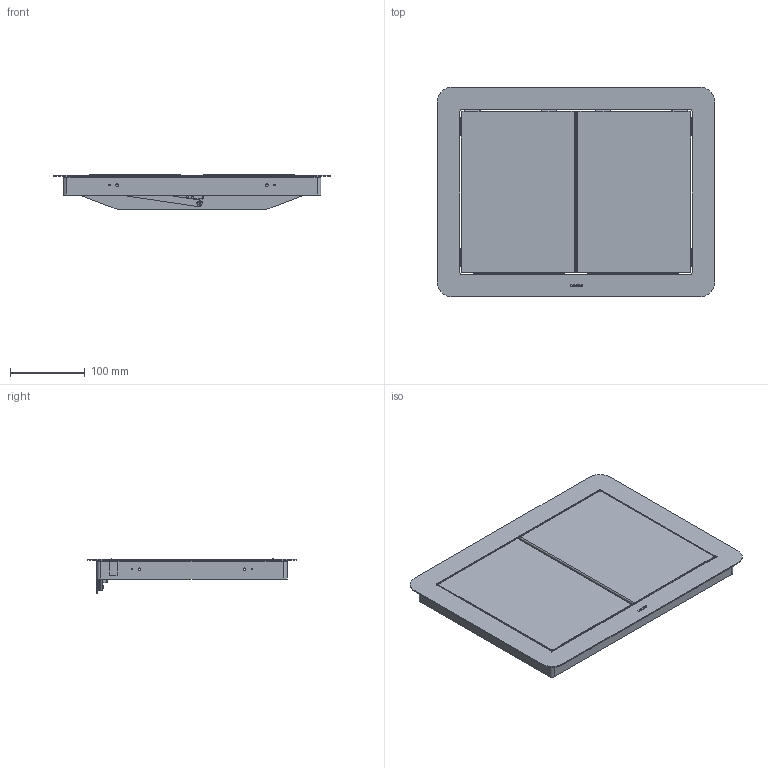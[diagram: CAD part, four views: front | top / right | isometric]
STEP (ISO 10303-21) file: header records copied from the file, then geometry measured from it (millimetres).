
FILE_DESCRIPTION (( 'STEP AP203' ), '1' );
FILE_NAME ('AZ-DD310(HL)_1.step', '2018-12-17T01:07:29', ( '' ), ( '' ), 'SwSTEP 2.0', 'SolidWorks 2015', '' );
FILE_SCHEMA (( 'CONFIG_CONTROL_DESIGN' ));
Length unit declared in the file: millimetre
Products named in the file (29): AZ-DD310(HL)_1; SC210-20655_HG-SH-25C_羽根B; SC210-19975_AZ-DD310(HL)_傾乕儉B ASSY; SC210-07866_AZ-DD310(HL)_本体; SC210-20655_HG-SH-25C_塇崻B_冇4寠捛壛岺; SC170-05419_HG-SH-25C_軸; SC210-19983_AZ-DD310(HL)_ばね_R; SC170-07874_AZ-DD310(HL)_フレーム; SC210-19992_HG-SH-25C_冇4寠捛壛岺; SC210-19992_HG-SH-25C_開状態; SC290-19977_AZ-G07_エッジガード_デフォルト; SC170-07876_AZ-DD310(HL)_軸1; SC210-07864_AZ-DD310(HL)_パネル_ASSY; SC210-19978_AZ-DD310(HL)_スペーサ; SC290-19979_AZ-G08_エッジガード; SC210-01673_BS-3_クリアバンパー; SC210-19968_AZ-DD310(HL)_傾乕儉A; SC290-19980_AZ-G09_エッジガード; SC210-07865_AZ-DD310(HL)_パネル; SC210-19969_AZ-DD310(HL)_軸2; SC290-19981_AZ-G10_エッジガード; SC210-19971_AZ-DD310(HL)_扉; SC210-19970_AZ-DD310(HL)_傾乕儉A ASSY; SC210-19982_AZ-DD310(HL)_ばね_L_30°; SC210-19974_AZ-DD310(HL)_扉; SC210-19972_AZ-DD310(HL)_傾乕儉B; C形止め輪_4; SC210-20654_HG-SH-25C_羽根A; SC210-19973_AZ-DD310(HL)_軸3
Assembly tree (43 placements, depth 4):
  AZ-DD310(HL)_1
    SC210-07864_AZ-DD310(HL)_パネル_ASSY
      SC210-07865_AZ-DD310(HL)_パネル
        SC210-07866_AZ-DD310(HL)_本体
        SC170-07874_AZ-DD310(HL)_フレーム
        SC170-07876_AZ-DD310(HL)_軸1
        SC210-01673_BS-3_クリアバンパー  x2
      SC210-19971_AZ-DD310(HL)_扉
      SC210-19974_AZ-DD310(HL)_扉
      SC210-19992_HG-SH-25C_開状態  x2
        SC210-20654_HG-SH-25C_羽根A
        SC210-20655_HG-SH-25C_羽根B
        SC170-05419_HG-SH-25C_軸
      SC210-19978_AZ-DD310(HL)_スペーサ  x2
      SC210-19992_HG-SH-25C_冇4寠捛壛岺  x2
        SC210-20654_HG-SH-25C_羽根A
        SC210-20655_HG-SH-25C_塇崻B_冇4寠捛壛岺
        SC170-05419_HG-SH-25C_軸
    SC210-19970_AZ-DD310(HL)_傾乕儉A ASSY  x2
      SC210-19968_AZ-DD310(HL)_傾乕儉A
      SC210-19969_AZ-DD310(HL)_軸2
    SC210-19975_AZ-DD310(HL)_傾乕儉B ASSY
      SC210-19972_AZ-DD310(HL)_傾乕儉B
      SC210-19973_AZ-DD310(HL)_軸3  x2
    SC210-19983_AZ-DD310(HL)_ばね_R
    SC290-19977_AZ-G07_エッジガード_デフォルト  x2
    SC290-19979_AZ-G08_エッジガード
    SC290-19980_AZ-G09_エッジガード  x2
    SC290-19981_AZ-G10_エッジガード  x2
    SC210-19982_AZ-DD310(HL)_ばね_L_30°
    C形止め輪_4  x5
Bounding box: 370 x 280 x 46.09 mm (x, y, z)
Volume: 242021.8 mm3; surface area: 363974.8 mm2
Topology: 42 solids, 42 shells, 1126 faces, 2776 edges, 1766 vertices
Faces by surface type: plane 541, cylinder 455, bspline 68, cone 44, torus 18
Entity records: 31807 total; most frequent: CARTESIAN_POINT 10143, DIRECTION 3975, ORIENTED_EDGE 3674, EDGE_CURVE 1837, AXIS2_PLACEMENT_3D 1451, VERTEX_POINT 1154, LINE 1073, VECTOR 1073
